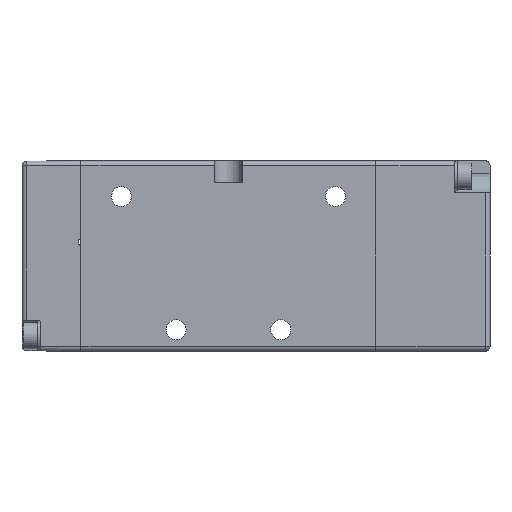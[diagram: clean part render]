
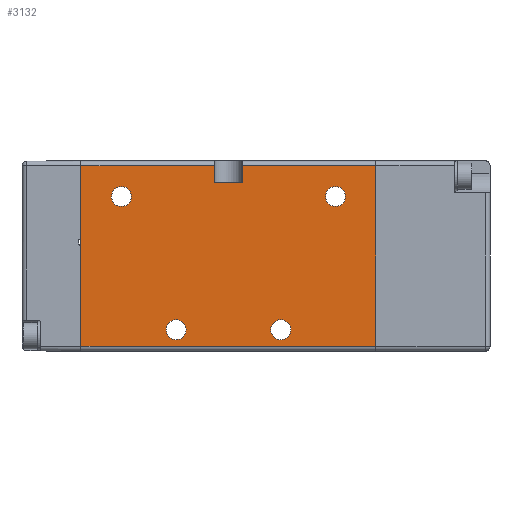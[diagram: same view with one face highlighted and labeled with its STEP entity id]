
A CAD part, front view. The second image highlights one B-rep face of the part: STEP entity #3132.
In plain terms, the highlighted planar face has unit normal (0, -1, 0).
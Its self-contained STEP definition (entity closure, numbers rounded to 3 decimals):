
#819 = EDGE_CURVE ( 'NONE', #5884, #4164, #3858, .T. ) ;
#870 = EDGE_CURVE ( 'NONE', #4164, #4161, #3789, .T. ) ;
#877 = EDGE_CURVE ( 'NONE', #4180, #6436, #3779, .T. ) ;
#927 = EDGE_CURVE ( 'NONE', #6436, #4196, #3723, .T. ) ;
#1060 = EDGE_CURVE ( 'NONE', #1374, #1374, #3601, .T. ) ;
#1094 = EDGE_CURVE ( 'NONE', #4180, #5842, #3566, .T. ) ;
#1123 = EDGE_CURVE ( 'NONE', #5712, #5884, #3536, .T. ) ;
#1131 = EDGE_CURVE ( 'NONE', #5842, #4161, #3509, .T. ) ;
#1140 = EDGE_CURVE ( 'NONE', #1277, #1277, #3490, .T. ) ;
#1142 = EDGE_CURVE ( 'NONE', #1280, #1280, #3487, .T. ) ;
#1156 = EDGE_CURVE ( 'NONE', #5712, #4196, #3481, .T. ) ;
#1157 = EDGE_CURVE ( 'NONE', #1294, #1294, #3467, .T. ) ;
#1260 = AXIS2_PLACEMENT_3D ( 'NONE', #6945, #6944, #6943 ) ;
#1277 = VERTEX_POINT ( 'NONE', #4502 ) ;
#1280 = VERTEX_POINT ( 'NONE', #4501 ) ;
#1294 = VERTEX_POINT ( 'NONE', #4494 ) ;
#1374 = VERTEX_POINT ( 'NONE', #4513 ) ;
#2555 = DIRECTION ( 'NONE',  ( -1., 0., 0. ) ) ;
#2557 = DIRECTION ( 'NONE',  ( 0., 1., 0. ) ) ;
#2558 = CARTESIAN_POINT ( 'NONE',  ( -92.353, -11., -22.9 ) ) ;
#2573 = PLANE ( 'NONE',  #9381 ) ;
#3097 = FACE_BOUND ( 'NONE', #5889, .T. ) ;
#3132 = ADVANCED_FACE ( 'NONE', ( #3097, #3416, #3431, #3385, #3414 ), #2573, .F. ) ;
#3385 = FACE_BOUND ( 'NONE', #5960, .T. ) ;
#3414 = FACE_OUTER_BOUND ( 'NONE', #5961, .T. ) ;
#3416 = FACE_BOUND ( 'NONE', #5891, .T. ) ;
#3431 = FACE_BOUND ( 'NONE', #5727, .T. ) ;
#3467 = CIRCLE ( 'NONE', #9320, 2.1 ) ;
#3469 = VECTOR ( 'NONE', #7589, 1000. ) ;
#3481 = LINE ( 'NONE', #7578, #3469 ) ;
#3487 = CIRCLE ( 'NONE', #9328, 2.1 ) ;
#3490 = CIRCLE ( 'NONE', #9334, 2.1 ) ;
#3502 = VECTOR ( 'NONE', #7503, 1000. ) ;
#3509 = LINE ( 'NONE', #7504, #3502 ) ;
#3512 = VECTOR ( 'NONE', #10594, 1000. ) ;
#3536 = LINE ( 'NONE', #10587, #3512 ) ;
#3560 = VECTOR ( 'NONE', #10703, 1000. ) ;
#3566 = LINE ( 'NONE', #10704, #3560 ) ;
#3601 = CIRCLE ( 'NONE', #1260, 2.1 ) ;
#3721 = VECTOR ( 'NONE', #4777, 1000. ) ;
#3723 = LINE ( 'NONE', #4785, #3721 ) ;
#3776 = VECTOR ( 'NONE', #5092, 1000. ) ;
#3779 = LINE ( 'NONE', #5094, #3776 ) ;
#3787 = VECTOR ( 'NONE', #5113, 1000. ) ;
#3789 = LINE ( 'NONE', #5114, #3787 ) ;
#3854 = VECTOR ( 'NONE', #4953, 1000. ) ;
#3858 = LINE ( 'NONE', #5033, #3854 ) ;
#4161 = VERTEX_POINT ( 'NONE', #10252 ) ;
#4164 = VERTEX_POINT ( 'NONE', #10222 ) ;
#4180 = VERTEX_POINT ( 'NONE', #10542 ) ;
#4196 = VERTEX_POINT ( 'NONE', #10524 ) ;
#4494 = CARTESIAN_POINT ( 'NONE',  ( 8.898, -11., 9.6 ) ) ;
#4501 = CARTESIAN_POINT ( 'NONE',  ( -2.602, -11., -18.4 ) ) ;
#4502 = CARTESIAN_POINT ( 'NONE',  ( -24.602, -11., -18.4 ) ) ;
#4513 = CARTESIAN_POINT ( 'NONE',  ( -36.102, -11., 9.6 ) ) ;
#4777 = DIRECTION ( 'NONE',  ( -1., 0., 0. ) ) ;
#4785 = CARTESIAN_POINT ( 'NONE',  ( -92.353, -11., 16.1 ) ) ;
#4953 = DIRECTION ( 'NONE',  ( 0., 0., 1. ) ) ;
#5033 = CARTESIAN_POINT ( 'NONE',  ( 15.298, -11., -22.9 ) ) ;
#5092 = DIRECTION ( 'NONE',  ( 0., 0., 1. ) ) ;
#5094 = CARTESIAN_POINT ( 'NONE',  ( -18.702, -11., 12.5 ) ) ;
#5113 = DIRECTION ( 'NONE',  ( -1., 0., 0. ) ) ;
#5114 = CARTESIAN_POINT ( 'NONE',  ( -92.353, -11., 16.1 ) ) ;
#5445 = ORIENTED_EDGE ( 'NONE', *, *, #819, .T. ) ;
#5534 = ORIENTED_EDGE ( 'NONE', *, *, #1142, .F. ) ;
#5555 = ORIENTED_EDGE ( 'NONE', *, *, #1060, .F. ) ;
#5712 = VERTEX_POINT ( 'NONE', #10417 ) ;
#5727 = EDGE_LOOP ( 'NONE', ( #6118 ) ) ;
#5842 = VERTEX_POINT ( 'NONE', #10376 ) ;
#5884 = VERTEX_POINT ( 'NONE', #10354 ) ;
#5889 = EDGE_LOOP ( 'NONE', ( #6286 ) ) ;
#5891 = EDGE_LOOP ( 'NONE', ( #5534 ) ) ;
#5960 = EDGE_LOOP ( 'NONE', ( #5555 ) ) ;
#5961 = EDGE_LOOP ( 'NONE', ( #7809, #7363, #9439, #9466, #7781, #5445, #9501, #9416 ) ) ;
#6118 = ORIENTED_EDGE ( 'NONE', *, *, #1157, .F. ) ;
#6286 = ORIENTED_EDGE ( 'NONE', *, *, #1140, .F. ) ;
#6436 = VERTEX_POINT ( 'NONE', #10238 ) ;
#6943 = DIRECTION ( 'NONE',  ( 1., 0., 0. ) ) ;
#6944 = DIRECTION ( 'NONE',  ( 0., -1., 0. ) ) ;
#6945 = CARTESIAN_POINT ( 'NONE',  ( -38.202, -11., 9.6 ) ) ;
#7363 = ORIENTED_EDGE ( 'NONE', *, *, #877, .T. ) ;
#7503 = DIRECTION ( 'NONE',  ( 0., 0., 1. ) ) ;
#7504 = CARTESIAN_POINT ( 'NONE',  ( -12.702, -11., 12.5 ) ) ;
#7565 = DIRECTION ( 'NONE',  ( 1., 0., 0. ) ) ;
#7568 = DIRECTION ( 'NONE',  ( 0., -1., 0. ) ) ;
#7574 = CARTESIAN_POINT ( 'NONE',  ( 6.798, -11., 9.6 ) ) ;
#7578 = CARTESIAN_POINT ( 'NONE',  ( -46.702, -11., -22.9 ) ) ;
#7589 = DIRECTION ( 'NONE',  ( 0., 0., 1. ) ) ;
#7671 = DIRECTION ( 'NONE',  ( 1., 0., 0. ) ) ;
#7672 = DIRECTION ( 'NONE',  ( 0., -1., 0. ) ) ;
#7673 = CARTESIAN_POINT ( 'NONE',  ( -4.702, -11., -18.4 ) ) ;
#7684 = DIRECTION ( 'NONE',  ( 1., 0., 0. ) ) ;
#7685 = DIRECTION ( 'NONE',  ( 0., -1., 0. ) ) ;
#7686 = CARTESIAN_POINT ( 'NONE',  ( -26.702, -11., -18.4 ) ) ;
#7781 = ORIENTED_EDGE ( 'NONE', *, *, #1123, .T. ) ;
#7809 = ORIENTED_EDGE ( 'NONE', *, *, #1094, .F. ) ;
#9320 = AXIS2_PLACEMENT_3D ( 'NONE', #7574, #7568, #7565 ) ;
#9328 = AXIS2_PLACEMENT_3D ( 'NONE', #7673, #7672, #7671 ) ;
#9334 = AXIS2_PLACEMENT_3D ( 'NONE', #7686, #7685, #7684 ) ;
#9381 = AXIS2_PLACEMENT_3D ( 'NONE', #2558, #2557, #2555 ) ;
#9416 = ORIENTED_EDGE ( 'NONE', *, *, #1131, .F. ) ;
#9439 = ORIENTED_EDGE ( 'NONE', *, *, #927, .T. ) ;
#9466 = ORIENTED_EDGE ( 'NONE', *, *, #1156, .F. ) ;
#9501 = ORIENTED_EDGE ( 'NONE', *, *, #870, .T. ) ;
#10222 = CARTESIAN_POINT ( 'NONE',  ( 15.298, -11., 16.1 ) ) ;
#10238 = CARTESIAN_POINT ( 'NONE',  ( -18.702, -11., 16.1 ) ) ;
#10252 = CARTESIAN_POINT ( 'NONE',  ( -12.702, -11., 16.1 ) ) ;
#10354 = CARTESIAN_POINT ( 'NONE',  ( 15.298, -11., -21.9 ) ) ;
#10376 = CARTESIAN_POINT ( 'NONE',  ( -12.702, -11., 12.5 ) ) ;
#10417 = CARTESIAN_POINT ( 'NONE',  ( -46.702, -11., -21.9 ) ) ;
#10524 = CARTESIAN_POINT ( 'NONE',  ( -46.702, -11., 16.1 ) ) ;
#10542 = CARTESIAN_POINT ( 'NONE',  ( -18.702, -11., 12.5 ) ) ;
#10587 = CARTESIAN_POINT ( 'NONE',  ( -92.353, -11., -21.9 ) ) ;
#10594 = DIRECTION ( 'NONE',  ( 1., 0., 0. ) ) ;
#10703 = DIRECTION ( 'NONE',  ( 1., 0., 0. ) ) ;
#10704 = CARTESIAN_POINT ( 'NONE',  ( -12.702, -11., 12.5 ) ) ;
